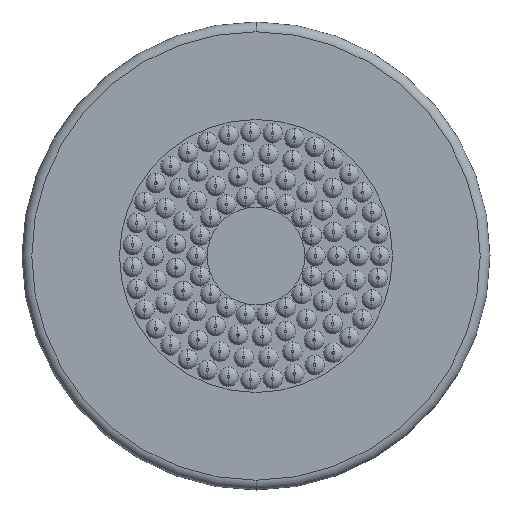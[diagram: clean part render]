
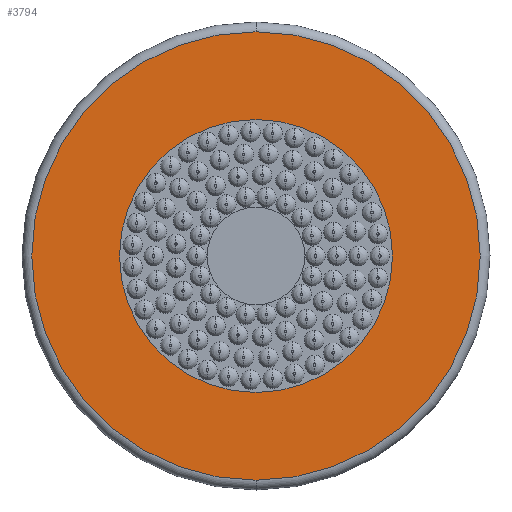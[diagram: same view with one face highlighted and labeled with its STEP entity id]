
A CAD part, front view. The second image highlights one B-rep face of the part: STEP entity #3794.
In plain terms, the highlighted planar face has unit normal (0, -1, 0).
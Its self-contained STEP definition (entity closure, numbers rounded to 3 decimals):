
#119 = EDGE_CURVE ( 'NONE', #1998, #7697, #3010, .T. ) ;
#796 = EDGE_LOOP ( 'NONE', ( #8553, #6392 ) ) ;
#1078 = EDGE_CURVE ( 'NONE', #7697, #1998, #5028, .T. ) ;
#1090 = DIRECTION ( 'NONE',  ( 0., 0., -1. ) ) ;
#1190 = AXIS2_PLACEMENT_3D ( 'NONE', #6760, #3874, #3246 ) ;
#1339 = FACE_OUTER_BOUND ( 'NONE', #796, .T. ) ;
#1615 = AXIS2_PLACEMENT_3D ( 'NONE', #4338, #5732, #2417 ) ;
#1640 = ORIENTED_EDGE ( 'NONE', *, *, #3539, .F. ) ;
#1998 = VERTEX_POINT ( 'NONE', #7019 ) ;
#2417 = DIRECTION ( 'NONE',  ( 0., 0., 1. ) ) ;
#3010 = CIRCLE ( 'NONE', #1615, 23. ) ;
#3246 = DIRECTION ( 'NONE',  ( 0., 0., 1. ) ) ;
#3385 = DIRECTION ( 'NONE',  ( 0., 0., 1. ) ) ;
#3539 = EDGE_CURVE ( 'NONE', #4879, #8343, #8049, .T. ) ;
#3794 = ADVANCED_FACE ( 'NONE', ( #6632, #1339 ), #4447, .F. ) ;
#3870 = CARTESIAN_POINT ( 'NONE',  ( 0., 0., 23. ) ) ;
#3874 = DIRECTION ( 'NONE',  ( 0., -1., 0. ) ) ;
#3878 = DIRECTION ( 'NONE',  ( 0., 1., 0. ) ) ;
#4171 = AXIS2_PLACEMENT_3D ( 'NONE', #4865, #7534, #8154 ) ;
#4338 = CARTESIAN_POINT ( 'NONE',  ( 0., 0., 0. ) ) ;
#4447 = PLANE ( 'NONE',  #6095 ) ;
#4456 = AXIS2_PLACEMENT_3D ( 'NONE', #7124, #7086, #1090 ) ;
#4865 = CARTESIAN_POINT ( 'NONE',  ( 0., 0., 0. ) ) ;
#4879 = VERTEX_POINT ( 'NONE', #5304 ) ;
#5028 = CIRCLE ( 'NONE', #1190, 23. ) ;
#5304 = CARTESIAN_POINT ( 'NONE',  ( 0., 0., -14. ) ) ;
#5544 = EDGE_LOOP ( 'NONE', ( #1640, #6129 ) ) ;
#5732 = DIRECTION ( 'NONE',  ( 0., -1., 0. ) ) ;
#5961 = CARTESIAN_POINT ( 'NONE',  ( 0., 0., 14. ) ) ;
#6044 = CARTESIAN_POINT ( 'NONE',  ( 0., 0., 0. ) ) ;
#6095 = AXIS2_PLACEMENT_3D ( 'NONE', #6044, #3878, #3385 ) ;
#6129 = ORIENTED_EDGE ( 'NONE', *, *, #8843, .F. ) ;
#6392 = ORIENTED_EDGE ( 'NONE', *, *, #119, .T. ) ;
#6632 = FACE_BOUND ( 'NONE', #5544, .T. ) ;
#6760 = CARTESIAN_POINT ( 'NONE',  ( 0., 0., 0. ) ) ;
#7019 = CARTESIAN_POINT ( 'NONE',  ( 0., 0., -23. ) ) ;
#7086 = DIRECTION ( 'NONE',  ( 0., -1., 0. ) ) ;
#7124 = CARTESIAN_POINT ( 'NONE',  ( 0., 0., 0. ) ) ;
#7534 = DIRECTION ( 'NONE',  ( 0., -1., 0. ) ) ;
#7697 = VERTEX_POINT ( 'NONE', #3870 ) ;
#8049 = CIRCLE ( 'NONE', #4171, 14. ) ;
#8154 = DIRECTION ( 'NONE',  ( 0., 0., -1. ) ) ;
#8343 = VERTEX_POINT ( 'NONE', #5961 ) ;
#8553 = ORIENTED_EDGE ( 'NONE', *, *, #1078, .T. ) ;
#8611 = CIRCLE ( 'NONE', #4456, 14. ) ;
#8843 = EDGE_CURVE ( 'NONE', #8343, #4879, #8611, .T. ) ;
